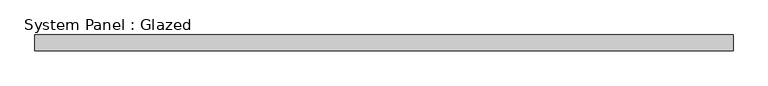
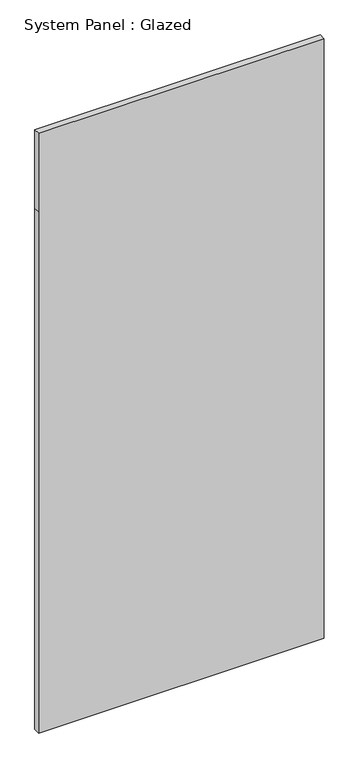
"""IFC4 building model written with IfcOpenShell, lengths in millimetres: plate geometry, System Panel : Glazed."""

from ifc_helpers import new_model, si_unit, frame, origin, place, context, project, spatial, polyline, outline, extrude, source, transform, mapped, element, save


def system_panel_glazed_c55c287d(model_context):
    return source(origin(), model_context, "Body", "SweptSolid", [
        extrude(outline(polyline([(0.0, -557.5), (0.0, 557.5), (2150.0, 557.5), (2475.0, 557.5), (2475.0, -557.5), (2150.0, -557.5), (0.0, -557.5)])), frame((0.0, 24.5, 0.0), z_axis=(0.0, 1.0, 0.0), x_axis=(0.0, 0.0, 1.0)), (0.0, 0.0, 1.0), 25.0),
    ])


if __name__ == "__main__":
    model = new_model("IFC4")
    model_context = context("Model", 3, world=origin())
    ifc_project = project(units=[si_unit("LENGTHUNIT", "METRE", prefix="MILLI")], contexts=[model_context])
    site = spatial("IfcSite", under=ifc_project)
    building = spatial("IfcBuilding", under=site)
    placement = place(None, origin())
    system_panel_glazed_shape = system_panel_glazed_c55c287d(model_context)
    element("IfcPlate", 1, ObjectType="System Panel : Glazed", at=placement, inside=building, context=model_context, shape_type="MappedRepresentation", body=[
        mapped(system_panel_glazed_shape, transform((0.0, 0.0, 0.0), x_axis=(1.0, 0.0, 0.0), y_axis=(0.0, 1.0, 0.0), z_axis=(0.0, 0.0, 1.0))),
    ])
    save(model, "model.ifc")
